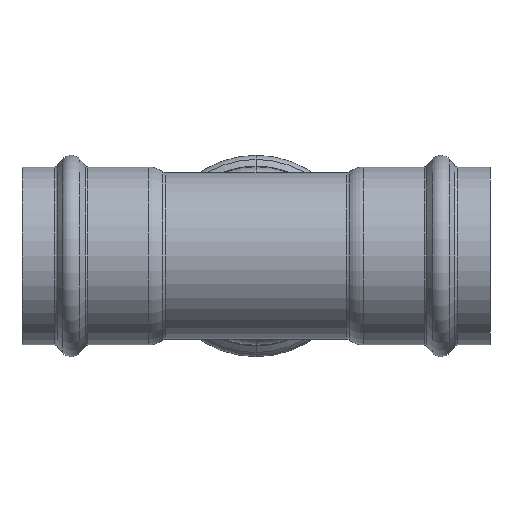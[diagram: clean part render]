
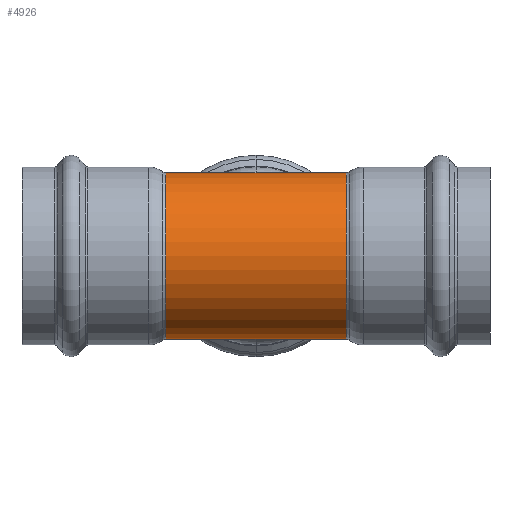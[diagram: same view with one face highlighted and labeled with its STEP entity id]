
A CAD part, front view. The second image highlights one B-rep face of the part: STEP entity #4926.
In plain terms, the highlighted cylindrical face has radius 27 mm (diameter 54 mm), a partial arc.
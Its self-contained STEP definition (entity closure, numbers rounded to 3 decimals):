
#87 = CARTESIAN_POINT ( 'NONE',  ( 29.234, 0., 0. ) ) ;
#165 = CARTESIAN_POINT ( 'NONE',  ( -29.234, 0., -27. ) ) ;
#413 = VECTOR ( 'NONE', #3550, 1000. ) ;
#463 = VECTOR ( 'NONE', #1648, 1000. ) ;
#507 = DIRECTION ( 'NONE',  ( 0., 0., 1. ) ) ;
#600 = LINE ( 'NONE', #4276, #463 ) ;
#760 = VERTEX_POINT ( 'NONE', #4550 ) ;
#811 = EDGE_CURVE ( 'NONE', #1394, #5619, #5615, .T. ) ;
#991 = AXIS2_PLACEMENT_3D ( 'NONE', #4435, #3568, #5321 ) ;
#1159 = LINE ( 'NONE', #4895, #413 ) ;
#1160 = FACE_OUTER_BOUND ( 'NONE', #4917, .T. ) ;
#1350 = CARTESIAN_POINT ( 'NONE',  ( 29.234, 0., -27. ) ) ;
#1394 = VERTEX_POINT ( 'NONE', #165 ) ;
#1427 = ORIENTED_EDGE ( 'NONE', *, *, #811, .F. ) ;
#1648 = DIRECTION ( 'NONE',  ( -1., 0., 0. ) ) ;
#1706 = ORIENTED_EDGE ( 'NONE', *, *, #3894, .T. ) ;
#1749 = DIRECTION ( 'NONE',  ( 0., 0., 1. ) ) ;
#1782 = CARTESIAN_POINT ( 'NONE',  ( -29.234, 0., 0. ) ) ;
#1834 = ORIENTED_EDGE ( 'NONE', *, *, #2461, .F. ) ;
#2133 = DIRECTION ( 'NONE',  ( -1., 0., 0. ) ) ;
#2144 = AXIS2_PLACEMENT_3D ( 'NONE', #1782, #2133, #1749 ) ;
#2461 = EDGE_CURVE ( 'NONE', #5376, #1394, #1159, .T. ) ;
#2722 = ORIENTED_EDGE ( 'NONE', *, *, #5067, .T. ) ;
#3114 = DIRECTION ( 'NONE',  ( -1., 0., 0. ) ) ;
#3550 = DIRECTION ( 'NONE',  ( -1., 0., 0. ) ) ;
#3568 = DIRECTION ( 'NONE',  ( -1., 0., 0. ) ) ;
#3628 = CIRCLE ( 'NONE', #4954, 27. ) ;
#3894 = EDGE_CURVE ( 'NONE', #5376, #760, #3628, .T. ) ;
#4276 = CARTESIAN_POINT ( 'NONE',  ( -17.486, 0., 27. ) ) ;
#4435 = CARTESIAN_POINT ( 'NONE',  ( -17.486, 0., 0. ) ) ;
#4550 = CARTESIAN_POINT ( 'NONE',  ( 29.234, 0., 27. ) ) ;
#4895 = CARTESIAN_POINT ( 'NONE',  ( -17.486, 0., -27. ) ) ;
#4917 = EDGE_LOOP ( 'NONE', ( #1834, #1706, #2722, #1427 ) ) ;
#4926 = ADVANCED_FACE ( 'NONE', ( #1160 ), #5551, .T. ) ;
#4954 = AXIS2_PLACEMENT_3D ( 'NONE', #87, #3114, #507 ) ;
#5067 = EDGE_CURVE ( 'NONE', #760, #5619, #600, .T. ) ;
#5093 = CARTESIAN_POINT ( 'NONE',  ( -29.234, 0., 27. ) ) ;
#5321 = DIRECTION ( 'NONE',  ( 0., 0., 1. ) ) ;
#5376 = VERTEX_POINT ( 'NONE', #1350 ) ;
#5551 = CYLINDRICAL_SURFACE ( 'NONE', #991, 27. ) ;
#5615 = CIRCLE ( 'NONE', #2144, 27. ) ;
#5619 = VERTEX_POINT ( 'NONE', #5093 ) ;
